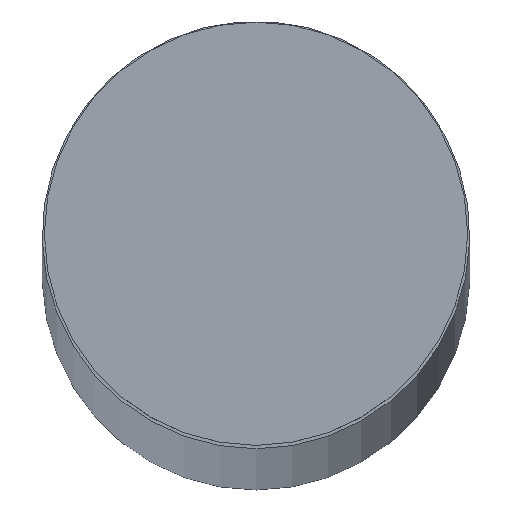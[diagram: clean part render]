
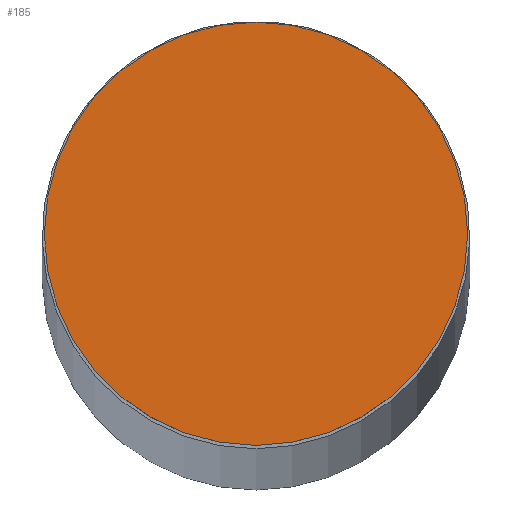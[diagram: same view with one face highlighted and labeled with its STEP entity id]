
A CAD part, top view. The second image highlights one B-rep face of the part: STEP entity #185.
In plain terms, the highlighted planar face has unit normal (0, 0, 1).
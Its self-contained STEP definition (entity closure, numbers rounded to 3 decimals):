
#38=FACE_OUTER_BOUND('',#52,.T.);
#52=EDGE_LOOP('',(#153));
#61=CIRCLE('',#226,12.575);
#96=VERTEX_POINT('',#330);
#115=EDGE_CURVE('',#96,#96,#61,.F.);
#153=ORIENTED_EDGE('',*,*,#115,.T.);
#172=PLANE('',#229);
#185=ADVANCED_FACE('',(#38),#172,.T.);
#226=AXIS2_PLACEMENT_3D('',#331,#274,#275);
#229=AXIS2_PLACEMENT_3D('',#337,#281,#282);
#274=DIRECTION('center_axis',(0.,0.,-1.));
#275=DIRECTION('ref_axis',(1.,0.,0.));
#281=DIRECTION('center_axis',(0.,0.,1.));
#282=DIRECTION('ref_axis',(1.,0.,0.));
#330=CARTESIAN_POINT('',(-12.575,0.,745.));
#331=CARTESIAN_POINT('Origin',(0.,0.,745.));
#337=CARTESIAN_POINT('Origin',(0.,0.,745.));
